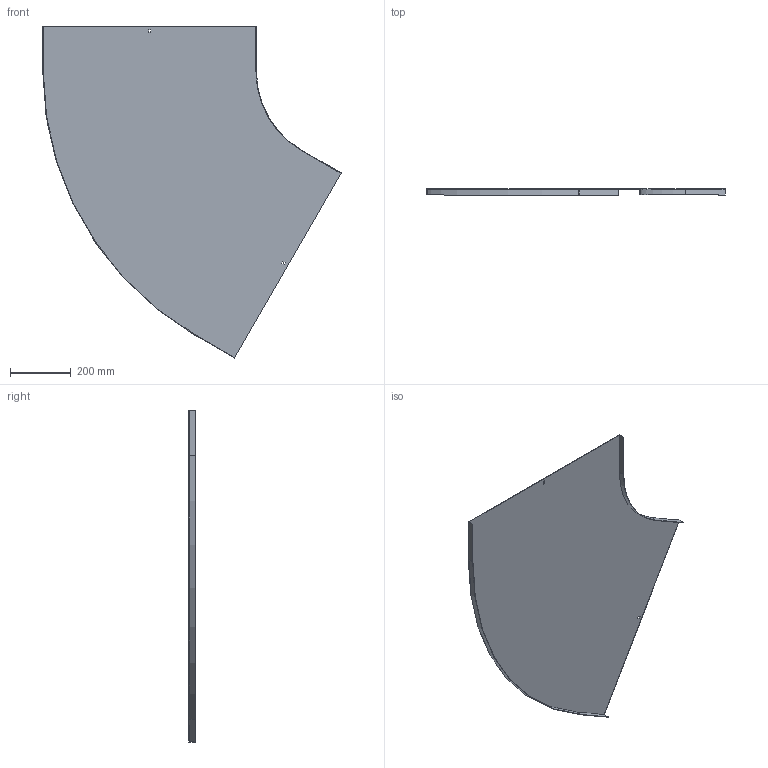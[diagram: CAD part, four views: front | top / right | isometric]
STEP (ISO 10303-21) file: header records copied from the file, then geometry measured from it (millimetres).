
FILE_DESCRIPTION (( 'STEP AP214' ), '1' );
FILE_NAME ('A2_13N3R700.step', '2025-02-21T10:52:24', ( '' ), ( '' ), 'SwSTEP 2.0', 'SolidWorks 2023', '' );
FILE_SCHEMA (( 'AUTOMOTIVE_DESIGN' ));
Length unit declared in the file: millimetre
Products named in the file (1): A2_13N3R700
Bounding box: 982.15 x 20 x 1092.32 mm (x, y, z)
Volume: 1088377.5 mm3; surface area: 1456425.1 mm2
Topology: 1 solids, 1 shells, 26 faces, 72 edges, 48 vertices
Faces by surface type: plane 22, cylinder 4
Entity records: 855 total; most frequent: CARTESIAN_POINT 147, ORIENTED_EDGE 144, DIRECTION 134, EDGE_CURVE 72, LINE 64, VECTOR 64, VERTEX_POINT 48, AXIS2_PLACEMENT_3D 35
